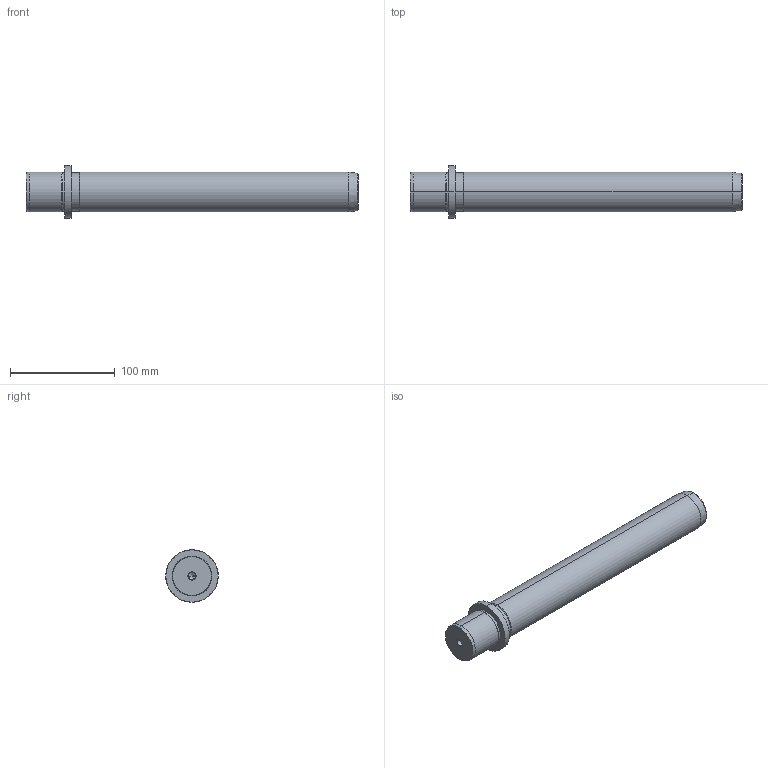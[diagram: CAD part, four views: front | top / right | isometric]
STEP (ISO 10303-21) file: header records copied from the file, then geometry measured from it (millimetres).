
FILE_DESCRIPTION(('CATIA V5 STEP Exchange'),'2;1');
FILE_NAME('C:\Users\Utente\Desktop\IO LAVORO\3D X SITO CF\X SITO\718\718-38x280.stp','2021-01-02T12:53:40+00:00',('none'),('none'),'CATIA Version 5 Release 20 GA (IN-10)','CATIA V5 STEP AP203','none');
FILE_SCHEMA(('CONFIG_CONTROL_DESIGN'));
Length unit declared in the file: millimetre
Products named in the file (1): 718-38x280
Bounding box: 317 x 50 x 50 mm (x, y, z)
Volume: 361309.8 mm3; surface area: 42851.3 mm2
Topology: 1 solids, 1 shells, 36 faces, 100 edges, 66 vertices
Faces by surface type: cone 16, cylinder 14, plane 4, torus 2
Entity records: 1291 total; most frequent: CARTESIAN_POINT 362, ORIENTED_EDGE 192, DIRECTION 157, EDGE_CURVE 96, AXIS2_PLACEMENT_3D 92, VERTEX_POINT 66, CIRCLE 55, EDGE_LOOP 40
